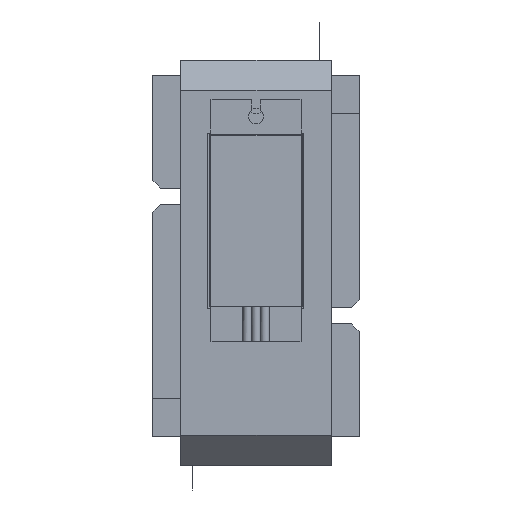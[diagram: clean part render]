
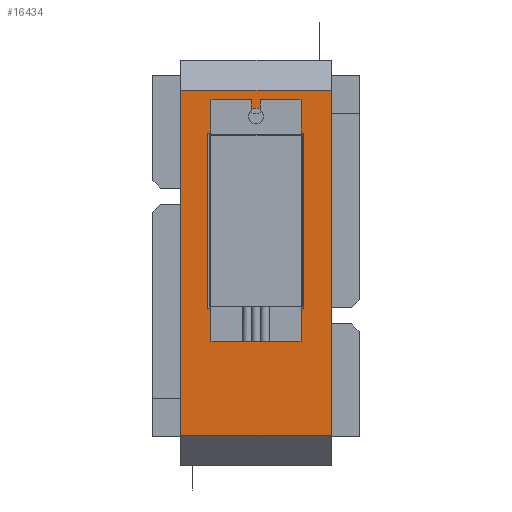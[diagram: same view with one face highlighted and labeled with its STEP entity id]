
A CAD part, front view. The second image highlights one B-rep face of the part: STEP entity #16434.
In plain terms, the highlighted planar face has unit normal (0, -1, 0) as drawn and (0, 0, 1) by its records, which use the part's own axes.
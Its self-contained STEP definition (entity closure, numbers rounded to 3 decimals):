
#3176=LINE('',#31480,#4678);
#3178=LINE('',#31485,#4680);
#3181=LINE('',#31489,#4683);
#3182=LINE('',#31491,#4684);
#3249=LINE('',#31627,#4751);
#3252=LINE('',#31633,#4754);
#3258=LINE('',#31644,#4760);
#3259=LINE('',#31645,#4761);
#4678=VECTOR('',#21113,10.);
#4680=VECTOR('',#21117,10.);
#4683=VECTOR('',#21122,10.);
#4684=VECTOR('',#21125,10.);
#4751=VECTOR('',#21226,10.);
#4754=VECTOR('',#21231,10.);
#4760=VECTOR('',#21239,10.);
#4761=VECTOR('',#21240,10.);
#5270=FACE_BOUND('',#6725,.T.);
#5271=FACE_BOUND('',#6726,.T.);
#5272=FACE_BOUND('',#6727,.T.);
#5918=FACE_OUTER_BOUND('',#6724,.T.);
#6724=EDGE_LOOP('',(#14557,#14558,#14559,#14560));
#6725=EDGE_LOOP('',(#14561,#14562,#14563,#14564));
#6726=EDGE_LOOP('',(#14565));
#6727=EDGE_LOOP('',(#14566));
#7284=CIRCLE('',#17709,1.1);
#7285=CIRCLE('',#17710,1.1);
#8563=VERTEX_POINT('',#31477);
#8564=VERTEX_POINT('',#31479);
#8565=VERTEX_POINT('',#31483);
#8566=VERTEX_POINT('',#31484);
#8617=VERTEX_POINT('',#31624);
#8618=VERTEX_POINT('',#31626);
#8620=VERTEX_POINT('',#31632);
#8624=VERTEX_POINT('',#31643);
#8625=VERTEX_POINT('',#31646);
#8626=VERTEX_POINT('',#31648);
#10579=EDGE_CURVE('',#8564,#8563,#3176,.T.);
#10581=EDGE_CURVE('',#8565,#8566,#3178,.T.);
#10584=EDGE_CURVE('',#8563,#8565,#3181,.T.);
#10585=EDGE_CURVE('',#8566,#8564,#3182,.T.);
#10652=EDGE_CURVE('',#8617,#8618,#3249,.T.);
#10655=EDGE_CURVE('',#8618,#8620,#3252,.T.);
#10661=EDGE_CURVE('',#8624,#8617,#3258,.T.);
#10662=EDGE_CURVE('',#8620,#8624,#3259,.T.);
#10663=EDGE_CURVE('',#8625,#8625,#7284,.T.);
#10664=EDGE_CURVE('',#8626,#8626,#7285,.T.);
#14557=ORIENTED_EDGE('',*,*,#10652,.F.);
#14558=ORIENTED_EDGE('',*,*,#10661,.F.);
#14559=ORIENTED_EDGE('',*,*,#10662,.F.);
#14560=ORIENTED_EDGE('',*,*,#10655,.F.);
#14561=ORIENTED_EDGE('',*,*,#10579,.T.);
#14562=ORIENTED_EDGE('',*,*,#10584,.T.);
#14563=ORIENTED_EDGE('',*,*,#10581,.T.);
#14564=ORIENTED_EDGE('',*,*,#10585,.T.);
#14565=ORIENTED_EDGE('',*,*,#10663,.T.);
#14566=ORIENTED_EDGE('',*,*,#10664,.T.);
#15706=PLANE('',#17708);
#16434=ADVANCED_FACE('',(#5918,#5270,#5271,#5272),#15706,.F.);
#17708=AXIS2_PLACEMENT_3D('',#31642,#21237,#21238);
#17709=AXIS2_PLACEMENT_3D('',#31647,#21241,#21242);
#17710=AXIS2_PLACEMENT_3D('',#31649,#21243,#21244);
#21113=DIRECTION('',(-1.,0.,0.));
#21117=DIRECTION('',(1.,0.,0.));
#21122=DIRECTION('',(0.,1.,0.));
#21125=DIRECTION('',(0.,-1.,0.));
#21226=DIRECTION('',(1.,0.,0.));
#21231=DIRECTION('',(0.,-1.,0.));
#21237=DIRECTION('center_axis',(0.,0.,
-1.));
#21238=DIRECTION('ref_axis',(-1.,0.,0.));
#21239=DIRECTION('',(0.,1.,0.));
#21240=DIRECTION('',(-1.,0.,0.));
#21241=DIRECTION('center_axis',(0.,0.,
-1.));
#21242=DIRECTION('ref_axis',(1.,0.,0.));
#21243=DIRECTION('center_axis',(0.,0.,
-1.));
#21244=DIRECTION('ref_axis',(1.,0.,0.));
#31477=CARTESIAN_POINT('',(-2.419,-6.1,19.));
#31479=CARTESIAN_POINT('',(10.381,-6.1,19.));
#31480=CARTESIAN_POINT('',(7.19,-6.1,19.));
#31483=CARTESIAN_POINT('',(-2.419,17.3,19.));
#31484=CARTESIAN_POINT('',(10.381,17.3,19.));
#31485=CARTESIAN_POINT('',(0.79,17.3,19.));
#31489=CARTESIAN_POINT('',(-2.419,-3.05,19.));
#31491=CARTESIAN_POINT('',(10.381,8.65,19.));
#31624=CARTESIAN_POINT('',(-6.,23.,19.));
#31626=CARTESIAN_POINT('',(14.,23.,19.));
#31627=CARTESIAN_POINT('',(7.5,23.,19.));
#31632=CARTESIAN_POINT('',(14.,-23.,19.));
#31633=CARTESIAN_POINT('',(14.,27.,19.));
#31642=CARTESIAN_POINT('Origin',(4.,0.,19.));
#31643=CARTESIAN_POINT('',(-6.,-23.,19.));
#31644=CARTESIAN_POINT('',(-6.,-27.,19.));
#31645=CARTESIAN_POINT('',(0.5,-23.,19.));
#31646=CARTESIAN_POINT('',(2.9,19.55,19.));
#31647=CARTESIAN_POINT('Origin',(4.,19.55,19.));
#31648=CARTESIAN_POINT('',(2.9,-8.25,19.));
#31649=CARTESIAN_POINT('Origin',(4.,-8.25,19.));
